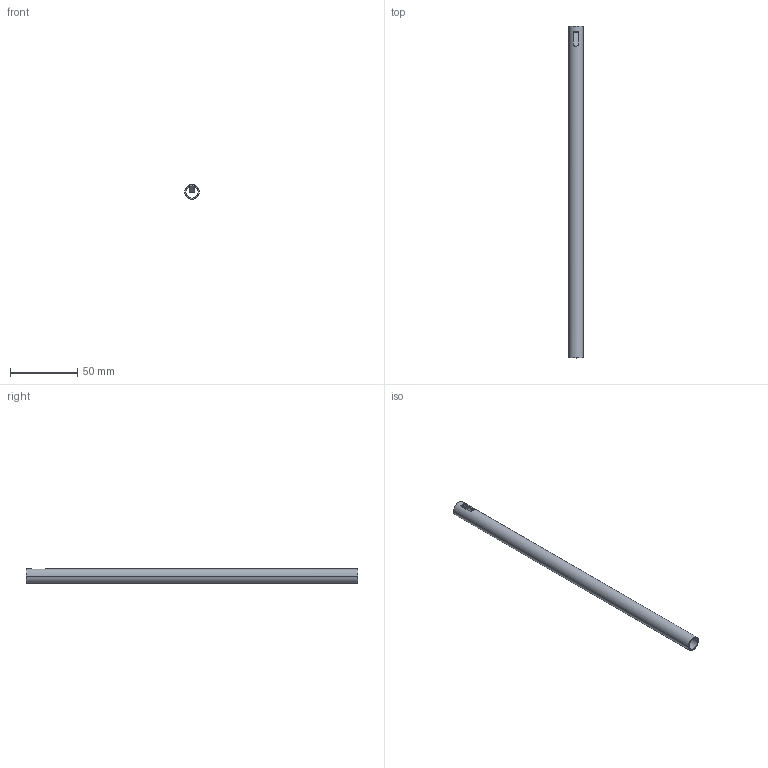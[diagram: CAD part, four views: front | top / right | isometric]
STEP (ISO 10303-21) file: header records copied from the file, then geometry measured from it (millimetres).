
FILE_DESCRIPTION (( 'STEP AP214' ), '1' );
FILE_NAME ('Relingsrohr_2S-Rundrel_INOX_PP10700100_270.step', '2010-09-07T12:59:26', ( 'grass' ), ( '' ), 'SwSTEP 2.0', 'SolidWorks 2010', '' );
FILE_SCHEMA (( 'AUTOMOTIVE_DESIGN' ));
Length unit declared in the file: millimetre
Products named in the file (1): Relingsrohr_2S-Rundrel_INOX_PP10700100_270
Bounding box: 11 x 246 x 11 mm (x, y, z)
Volume: 7726.1 mm3; surface area: 15559.9 mm2
Topology: 1 solids, 1 shells, 14 faces, 34 edges, 22 vertices
Faces by surface type: plane 10, cylinder 4
Entity records: 476 total; most frequent: CARTESIAN_POINT 77, DIRECTION 72, ORIENTED_EDGE 68, EDGE_CURVE 34, AXIS2_PLACEMENT_3D 25, VECTOR 22, LINE 22, VERTEX_POINT 22
